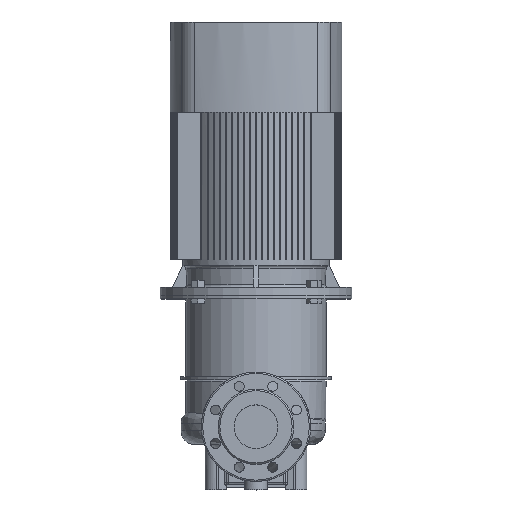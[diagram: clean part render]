
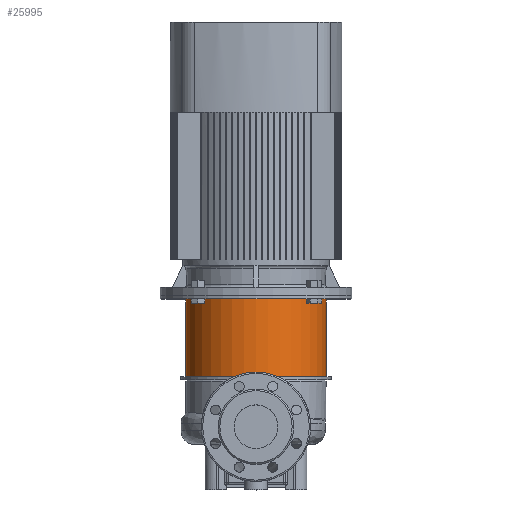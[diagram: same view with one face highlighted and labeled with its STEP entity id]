
A CAD part, top view. The second image highlights one B-rep face of the part: STEP entity #25995.
In plain terms, the highlighted cylindrical face has radius 128 mm (diameter 256 mm), a partial arc.
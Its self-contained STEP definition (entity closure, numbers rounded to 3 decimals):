
#714 = EDGE_LOOP ( 'NONE', ( #29304, #3692, #23463, #16662 ) ) ;
#1109 = CARTESIAN_POINT ( 'NONE',  ( 0., 0., 14.36 ) ) ;
#1138 = AXIS2_PLACEMENT_3D ( 'NONE', #1109, #20311, #17532 ) ;
#1355 = VECTOR ( 'NONE', #15004, 1000. ) ;
#1973 = VECTOR ( 'NONE', #8759, 1000. ) ;
#2944 = DIRECTION ( 'NONE',  ( 1., 0., 0. ) ) ;
#3692 = ORIENTED_EDGE ( 'NONE', *, *, #14589, .T. ) ;
#4222 = CARTESIAN_POINT ( 'NONE',  ( -128., 0., -6. ) ) ;
#6566 = DIRECTION ( 'NONE',  ( 1., 0., 0. ) ) ;
#8759 = DIRECTION ( 'NONE',  ( 0., 0., 1. ) ) ;
#8908 = AXIS2_PLACEMENT_3D ( 'NONE', #10062, #12690, #2944 ) ;
#9652 = VERTEX_POINT ( 'NONE', #15531 ) ;
#10062 = CARTESIAN_POINT ( 'NONE',  ( 0., 0., -148. ) ) ;
#10868 = CYLINDRICAL_SURFACE ( 'NONE', #1138, 128. ) ;
#12690 = DIRECTION ( 'NONE',  ( 0., 0., 1. ) ) ;
#14108 = AXIS2_PLACEMENT_3D ( 'NONE', #20209, #27795, #6566 ) ;
#14239 = EDGE_CURVE ( 'NONE', #9652, #26667, #18058, .T. ) ;
#14589 = EDGE_CURVE ( 'NONE', #18113, #9652, #26222, .T. ) ;
#15004 = DIRECTION ( 'NONE',  ( 0., 0., 1. ) ) ;
#15163 = CARTESIAN_POINT ( 'NONE',  ( -128., 0., 14.36 ) ) ;
#15531 = CARTESIAN_POINT ( 'NONE',  ( 128., 0., -148. ) ) ;
#16662 = ORIENTED_EDGE ( 'NONE', *, *, #30415, .F. ) ;
#17532 = DIRECTION ( 'NONE',  ( 1., 0., 0. ) ) ;
#17847 = FACE_OUTER_BOUND ( 'NONE', #714, .T. ) ;
#18058 = LINE ( 'NONE', #27661, #1973 ) ;
#18113 = VERTEX_POINT ( 'NONE', #28182 ) ;
#19523 = EDGE_CURVE ( 'NONE', #18113, #19996, #21817, .T. ) ;
#19996 = VERTEX_POINT ( 'NONE', #4222 ) ;
#20209 = CARTESIAN_POINT ( 'NONE',  ( 0., 0., -6. ) ) ;
#20311 = DIRECTION ( 'NONE',  ( 0., 0., 1. ) ) ;
#21817 = LINE ( 'NONE', #15163, #1355 ) ;
#23463 = ORIENTED_EDGE ( 'NONE', *, *, #14239, .T. ) ;
#25811 = CARTESIAN_POINT ( 'NONE',  ( 128., 0., -6. ) ) ;
#25995 = ADVANCED_FACE ( 'NONE', ( #17847 ), #10868, .T. ) ;
#26222 = CIRCLE ( 'NONE', #8908, 128. ) ;
#26667 = VERTEX_POINT ( 'NONE', #25811 ) ;
#27661 = CARTESIAN_POINT ( 'NONE',  ( 128., 0., 14.36 ) ) ;
#27795 = DIRECTION ( 'NONE',  ( 0., 0., 1. ) ) ;
#27959 = CIRCLE ( 'NONE', #14108, 128. ) ;
#28182 = CARTESIAN_POINT ( 'NONE',  ( -128., 0., -148. ) ) ;
#29304 = ORIENTED_EDGE ( 'NONE', *, *, #19523, .F. ) ;
#30415 = EDGE_CURVE ( 'NONE', #19996, #26667, #27959, .T. ) ;
